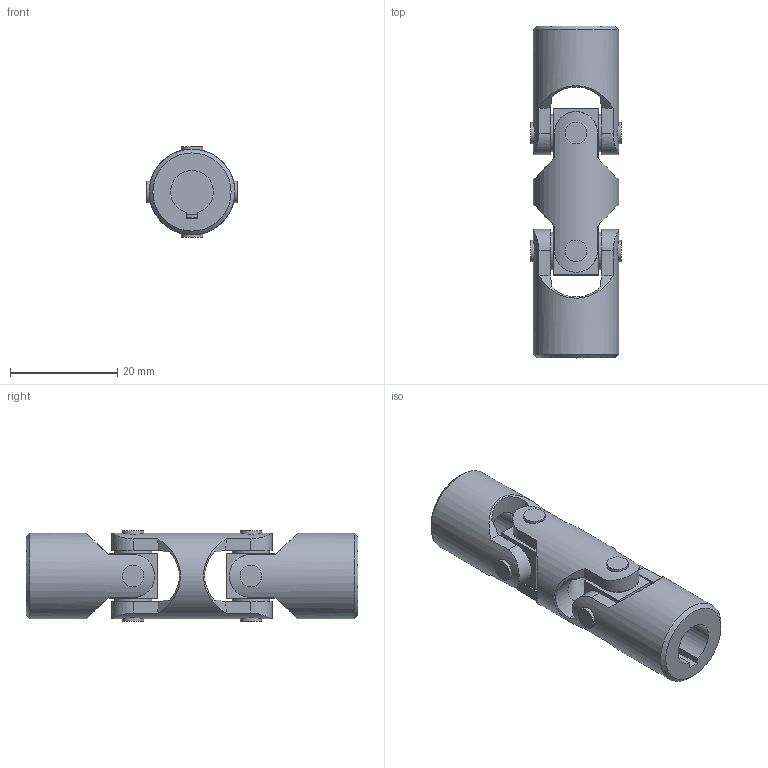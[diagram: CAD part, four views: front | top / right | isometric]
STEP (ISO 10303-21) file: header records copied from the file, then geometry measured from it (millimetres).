
FILE_DESCRIPTION(/* description */ (''),/* implementation_level */ '2;1');
FILE_NAME(/* name */ '\\SRV2016\Societa\Stefano\Disegni 3D\0Catalogo 3D\14Doppi XD\Ø16_02XD_SX0D082C.stp',/* time_stamp */ '2023-05-15T08:30:07+02:00',/* author */ ('acquisti'),/* organization */ (''),/* preprocessor_version */ 'ST-DEVELOPER v15.6',/* originating_system */ 'Autodesk Inventor 2015',/* authorisation */ '');
FILE_SCHEMA (('AUTOMOTIVE_DESIGN { 1 0 10303 214 3 1 1 }'));
Length unit declared in the file: millimetre
Products named in the file (4): 01X MOD; 01-02X SFE; 02X MOC; Ø16_02XD_SX0D0800
Assembly tree (5 placements, depth 2):
  Ø16_02XD_SX0D0800
    01X MOD
    01-02X SFE  x2
    02X MOC  x2
Bounding box: 16.9 x 62 x 16.9 mm (x, y, z)
Volume: 8273.6 mm3; surface area: 6042.9 mm2
Topology: 5 solids, 5 shells, 127 faces, 329 edges, 224 vertices
Faces by surface type: plane 68, cylinder 33, cone 22, torus 4
Full cylindrical faces by diameter (mm): 4 x8, 7 x8, 8.5 x2, 16 x3
Entity records: 3098 total; most frequent: CARTESIAN_POINT 1136, ORIENTED_EDGE 392, DIRECTION 365, EDGE_CURVE 196, AXIS2_PLACEMENT_3D 154, VERTEX_POINT 144, EDGE_LOOP 116, FACE_OUTER_BOUND 85
